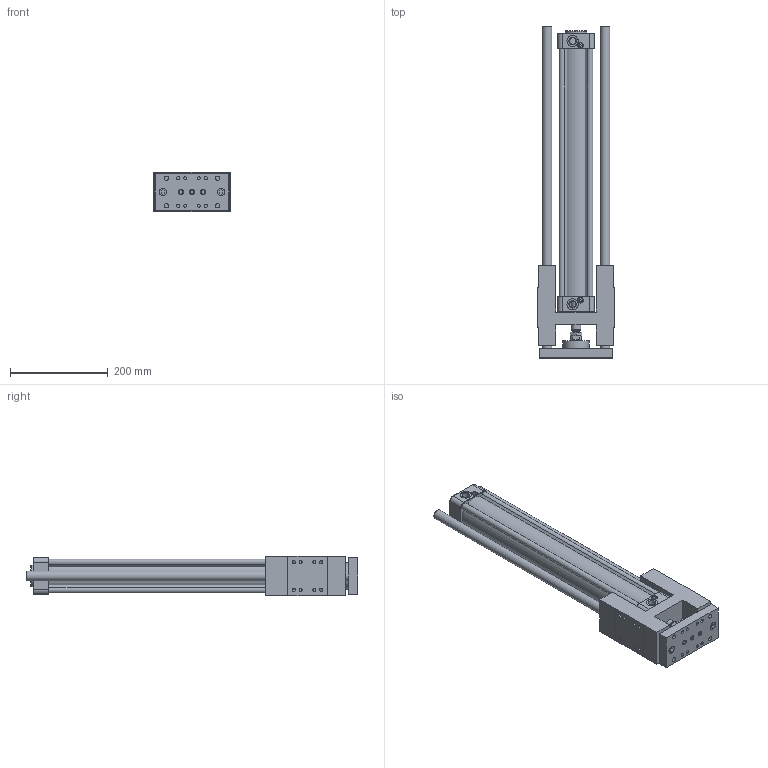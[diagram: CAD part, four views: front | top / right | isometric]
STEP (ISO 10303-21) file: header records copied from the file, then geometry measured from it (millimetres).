
FILE_DESCRIPTION((''),'2;1');
FILE_NAME('I:\3D電子目錄\氣缸\GHB(U)\GHB(U)\GHB(U)63\GHB(U)63x450.stp','2007-10-22T13:15:38',('Administrator'),(''),'Autodesk Inventor 11','Autodesk Inventor 11','');
FILE_SCHEMA(('AUTOMOTIVE_DESIGN { 1 0 10303 214 1 1 1 1 }'));
Length unit declared in the file: millimetre
Products named in the file (1): GHB(U)63
Bounding box: 156 x 680 x 80 mm (x, y, z)
Volume: 2441989.9 mm3; surface area: 595890.9 mm2
Topology: 1 solids, 13 shells, 789 faces, 1754 edges, 1088 vertices
Faces by surface type: plane 303, bspline 237, cylinder 159, cone 88, torus 2
Full cylindrical faces by diameter (mm): 2.5 x2, 6 x4, 6.647 x4, 6.7 x2, 6.75 x4, 7.25 x4, 7.4 x4, 7.5 x2, 8.5 x9, 9 x2, 9.8 x4, 10 x5, 11.5 x1, 11.9 x1, 12 x3, 13 x4, 14 x8, 14.5 x2, 16 x3, 20 x4, 23 x3, 25 x1, 26 x2, 45 x1, 54 x1, 63 x1
Entity records: 22867 total; most frequent: CARTESIAN_POINT 7086, DIRECTION 3132, ORIENTED_EDGE 3076, EDGE_CURVE 1538, AXIS2_PLACEMENT_3D 1207, EDGE_LOOP 1075, VERTEX_POINT 1047, FACE_OUTER_BOUND 789
